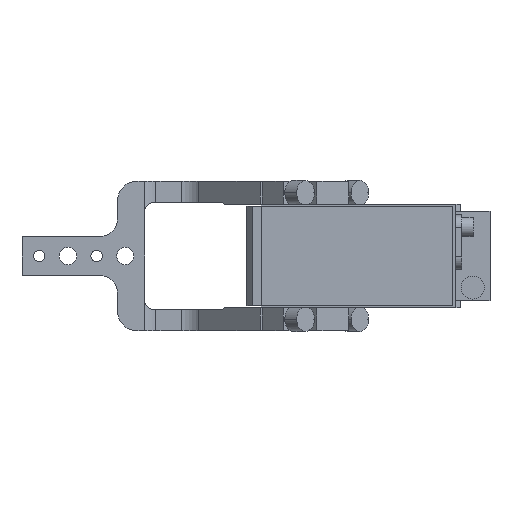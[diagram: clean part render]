
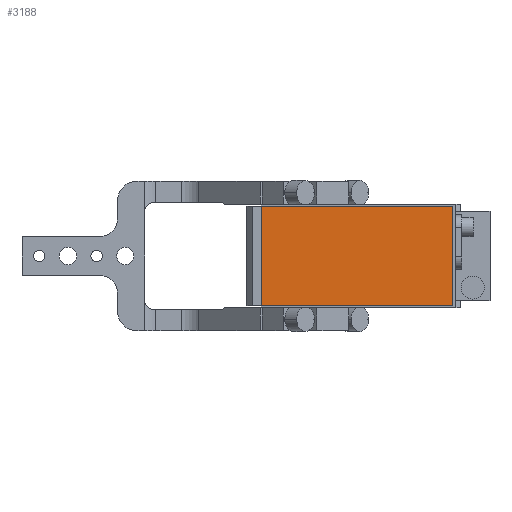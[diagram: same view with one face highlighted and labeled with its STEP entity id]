
A CAD part, front view. The second image highlights one B-rep face of the part: STEP entity #3188.
In plain terms, the highlighted planar face has unit normal (0, -1, 0).
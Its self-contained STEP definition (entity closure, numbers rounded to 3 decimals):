
#131 = LINE ( 'NONE', #1188, #12150 ) ;
#178 = CARTESIAN_POINT ( 'NONE',  ( 81., -286.5, 26. ) ) ;
#895 = LINE ( 'NONE', #1823, #10169 ) ;
#1188 = CARTESIAN_POINT ( 'NONE',  ( -19., -286.5, 26. ) ) ;
#1251 = CARTESIAN_POINT ( 'NONE',  ( -19., -286.5, -26. ) ) ;
#1786 = CARTESIAN_POINT ( 'NONE',  ( -19., -286.5, 26. ) ) ;
#1823 = CARTESIAN_POINT ( 'NONE',  ( 81., -286.5, 26. ) ) ;
#1939 = ORIENTED_EDGE ( 'NONE', *, *, #11296, .T. ) ;
#2721 = VERTEX_POINT ( 'NONE', #1251 ) ;
#2969 = PLANE ( 'NONE',  #5994 ) ;
#3188 = ADVANCED_FACE ( 'NONE', ( #12364 ), #2969, .T. ) ;
#3587 = VERTEX_POINT ( 'NONE', #178 ) ;
#4395 = ORIENTED_EDGE ( 'NONE', *, *, #8681, .T. ) ;
#5160 = VERTEX_POINT ( 'NONE', #10599 ) ;
#5325 = DIRECTION ( 'NONE',  ( 1., 0., 0. ) ) ;
#5495 = DIRECTION ( 'NONE',  ( -1., 0., 0. ) ) ;
#5809 = VECTOR ( 'NONE', #5325, 1000. ) ;
#5994 = AXIS2_PLACEMENT_3D ( 'NONE', #12260, #8026, #10278 ) ;
#6696 = VECTOR ( 'NONE', #10389, 1000. ) ;
#7461 = CARTESIAN_POINT ( 'NONE',  ( -19., -286.5, -26. ) ) ;
#7728 = LINE ( 'NONE', #7461, #5809 ) ;
#8026 = DIRECTION ( 'NONE',  ( 0., -1., 0. ) ) ;
#8681 = EDGE_CURVE ( 'NONE', #3587, #10489, #131, .T. ) ;
#9319 = DIRECTION ( 'NONE',  ( 0., 0., 1. ) ) ;
#10169 = VECTOR ( 'NONE', #9319, 1000. ) ;
#10278 = DIRECTION ( 'NONE',  ( 0., 0., -1. ) ) ;
#10389 = DIRECTION ( 'NONE',  ( 0., 0., -1. ) ) ;
#10489 = VERTEX_POINT ( 'NONE', #13150 ) ;
#10599 = CARTESIAN_POINT ( 'NONE',  ( 81., -286.5, -26. ) ) ;
#10807 = ORIENTED_EDGE ( 'NONE', *, *, #13050, .T. ) ;
#10859 = ORIENTED_EDGE ( 'NONE', *, *, #13398, .T. ) ;
#11296 = EDGE_CURVE ( 'NONE', #5160, #3587, #895, .T. ) ;
#12150 = VECTOR ( 'NONE', #5495, 1000. ) ;
#12260 = CARTESIAN_POINT ( 'NONE',  ( 0., -286.5, 0. ) ) ;
#12364 = FACE_OUTER_BOUND ( 'NONE', #12462, .T. ) ;
#12462 = EDGE_LOOP ( 'NONE', ( #10807, #10859, #1939, #4395 ) ) ;
#13050 = EDGE_CURVE ( 'NONE', #10489, #2721, #13443, .T. ) ;
#13150 = CARTESIAN_POINT ( 'NONE',  ( -19., -286.5, 26. ) ) ;
#13398 = EDGE_CURVE ( 'NONE', #2721, #5160, #7728, .T. ) ;
#13443 = LINE ( 'NONE', #1786, #6696 ) ;
